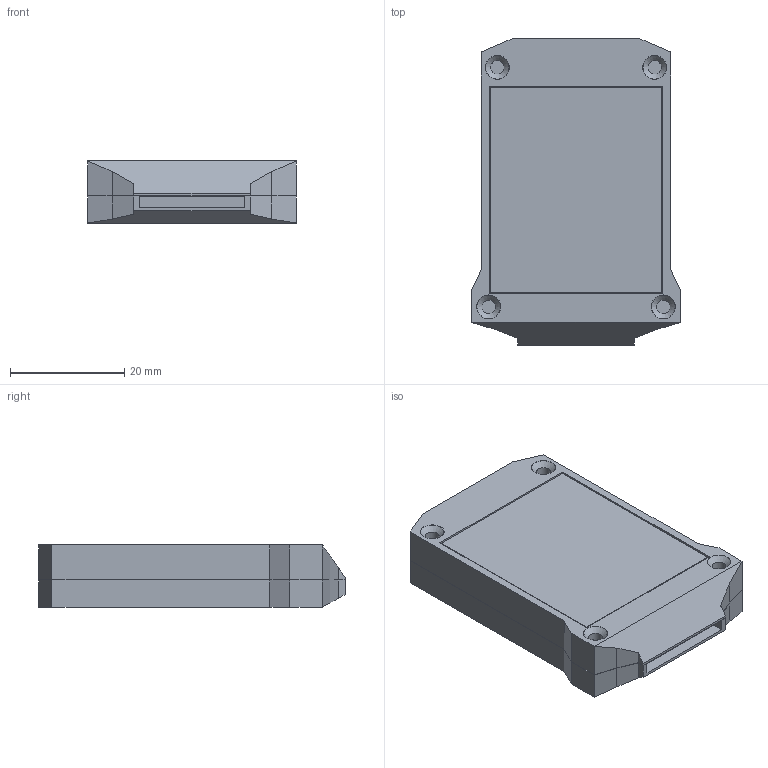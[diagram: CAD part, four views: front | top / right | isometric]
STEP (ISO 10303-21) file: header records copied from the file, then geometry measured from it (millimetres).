
FILE_DESCRIPTION(('Open CASCADE Model'),'2;1');
FILE_NAME('Open CASCADE Shape Model','2026-09-30T23:04:27',('Author'),( 'Open CASCADE'),'Open CASCADE STEP processor 8.0','Open CASCADE 8.0' ,'Unknown');
FILE_SCHEMA(('AP242_MANAGED_MODEL_BASED_3D_ENGINEERING_MIM_LF {1 0 10303 442 1 1 4 }' ));
Length unit declared in the file: millimetre
Products named in the file (4): MSV4 Integrated Solar Base; MSV4 Integrated Solar Lid; MSV4 Case Gasket; 36 x 30 mm Solar Panel Reference - Do Not Print
Bounding box: 36.6 x 53.7 x 10.9 mm (x, y, z)
Volume: 9857.3 mm3; surface area: 13852.8 mm2
Topology: 4 solids, 4 shells, 183 faces, 448 edges, 296 vertices
Faces by surface type: plane 153, cylinder 22, extrusion 4, cone 4
Full cylindrical faces by diameter (mm): 1.6 x2, 2.4 x8, 2.9 x4, 3.3 x4, 4.2 x4
Entity records: 12010 total; most frequent: CARTESIAN_POINT 2990, DIRECTION 1562, VECTOR 1062, LINE 1058, ORIENTED_EDGE 896, PCURVE 896, DEFINITIONAL_REPRESENTATION 896, EDGE_CURVE 448
